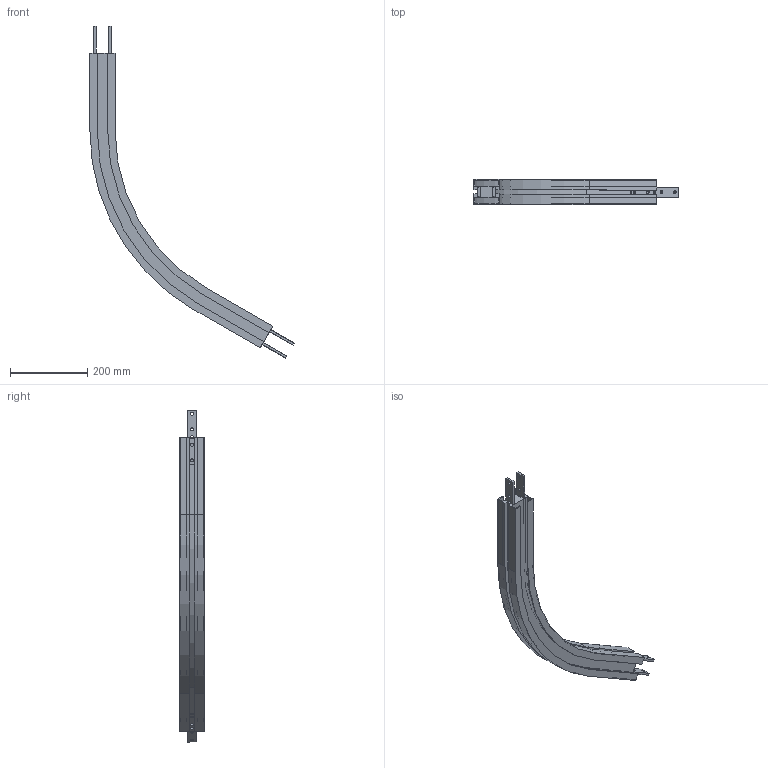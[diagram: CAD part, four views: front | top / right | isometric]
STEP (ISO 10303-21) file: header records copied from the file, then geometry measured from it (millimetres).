
FILE_DESCRIPTION (( 'STEP AP203' ), '1' );
FILE_NAME ('FSHB60R500.STEP', '2007-12-12T08:26:02', ( ' ' ), ( ' ' ), 'SwSTEP 2.0', 'SolidWorks 2008', '' );
FILE_SCHEMA (( 'CONFIG_CONTROL_DESIGN' ));
Length unit declared in the file: millimetre
Products named in the file (1): FSHB60R500
Bounding box: 527.38 x 64 x 857.15 mm (x, y, z)
Volume: 1625548.8 mm3; surface area: 567601.2 mm2
Topology: 1 solids, 1 shells, 166 faces, 460 edges, 300 vertices
Faces by surface type: plane 92, cylinder 74
Entity records: 5441 total; most frequent: DIRECTION 946, CARTESIAN_POINT 927, ORIENTED_EDGE 920, EDGE_CURVE 460, AXIS2_PLACEMENT_3D 319, VECTOR 308, LINE 308, VERTEX_POINT 300
